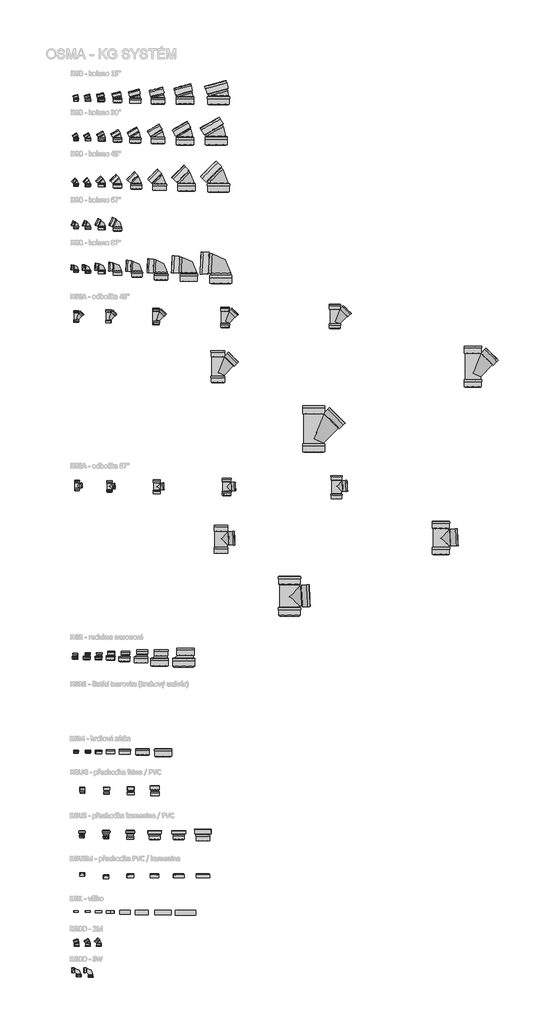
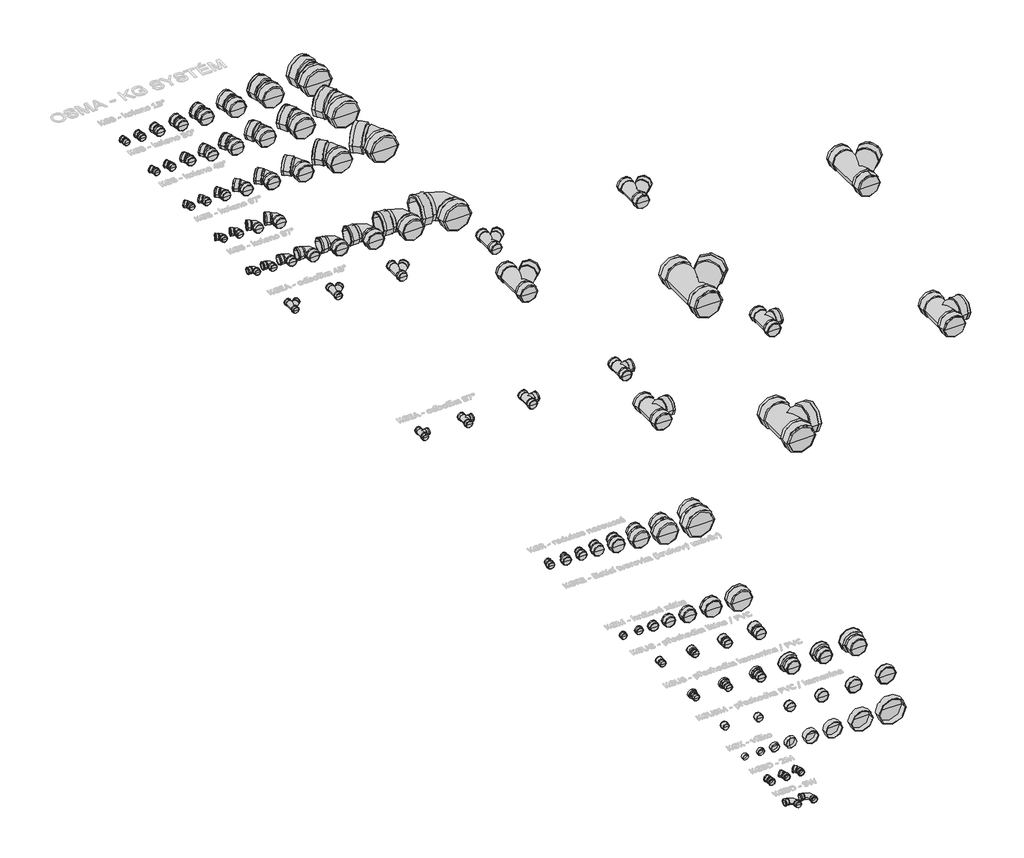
# One storey, part 1 of 11: 96 pipe fittings.
"""IFC4 building model written with IfcOpenShell, lengths in millimetres."""

from ifc_helpers import new_model, si_unit, origin, place, context, project, spatial, transform, mapped, element, save
from components import pipe_fitting_5a6e30b1, pipe_fitting_2837489d, pipe_fitting_dc32cf9a, pipe_fitting_b8d6450d, pipe_fitting_40a91ca7, pipe_fitting_8ffdc7c7, pipe_fitting_6a65c738, pipe_fitting_c6753fa5, pipe_fitting_4bf7101e, pipe_fitting_a2362ea0, pipe_fitting_9a41f693, pipe_fitting_a5079038, pipe_fitting_8c594ed1, pipe_fitting_febe9d38, pipe_fitting_99e02b00, pipe_fitting_37186c2c, pipe_fitting_910813cb, pipe_fitting_0326b847, pipe_fitting_0e802f2f, pipe_fitting_2887bba4, pipe_fitting_e1511a6a, pipe_fitting_8aa33925, pipe_fitting_d19f67d4, pipe_fitting_51a074c1, pipe_fitting_e6965fa8, pipe_fitting_e22430f9, pipe_fitting_066d6869, pipe_fitting_6eddf8c8, pipe_fitting_09943354, pipe_fitting_ffc2082e, pipe_fitting_1d1756fd, pipe_fitting_90de1f05, pipe_fitting_f74dee84, pipe_fitting_d5e943a8, pipe_fitting_e47ee67b, pipe_fitting_beb3b544, pipe_fitting_9a7229fe, pipe_fitting_2e6fd54e, pipe_fitting_927fa2d2, pipe_fitting_35860470, pipe_fitting_46e281f1, pipe_fitting_bbba7b96, pipe_fitting_8a2bdf2f, pipe_fitting_8c685066, pipe_fitting_2b2e1a89, pipe_fitting_80dcf368, pipe_fitting_c8b2bdba, pipe_fitting_d901568e, pipe_fitting_255ecb20, pipe_fitting_365be447, pipe_fitting_ae4a4517, pipe_fitting_b08f8388, pipe_fitting_9fab9375, pipe_fitting_a868a8c7, pipe_fitting_8a480465, pipe_fitting_30c0f1cb, pipe_fitting_4585e259, pipe_fitting_414ade49, pipe_fitting_635b38b5, pipe_fitting_34dcda45, pipe_fitting_20eff91d, pipe_fitting_ef111def, pipe_fitting_99fc2559, pipe_fitting_96c7e01a, pipe_fitting_d790b651, pipe_fitting_e43abb69, pipe_fitting_0b5b723b, pipe_fitting_31d9e293, pipe_fitting_0f3e2c08, pipe_fitting_437f7f8f, pipe_fitting_2241b52f, pipe_fitting_3bbf1025, pipe_fitting_0191ecb1, pipe_fitting_44bcff53, pipe_fitting_68c4766c, pipe_fitting_071e107d, pipe_fitting_3e9633bb, pipe_fitting_a25a1ad3, pipe_fitting_4d8cb074, pipe_fitting_13331f16, pipe_fitting_24f530bc, pipe_fitting_43338059, pipe_fitting_58989ca3, pipe_fitting_af80dbad, pipe_fitting_bcc23936, pipe_fitting_2ef12dd6, pipe_fitting_b3f756ff, pipe_fitting_48048346, pipe_fitting_a9f88fd3, pipe_fitting_ba354359, pipe_fitting_25325497, pipe_fitting_2def1864, pipe_fitting_9ba251ea, pipe_fitting_2241f474, pipe_fitting_98616ae5

model = new_model("IFC4")

# Units and contexts
model_context = context("Model", 3, world=origin())
ifc_project = project(units=[si_unit("LENGTHUNIT", "METRE", prefix="MILLI")], contexts=[model_context])

# Site, building, storey
site = spatial("IfcSite", under=ifc_project)
building = spatial("IfcBuilding", under=site)
storey = spatial("IfcBuildingStorey", under=building, Name="Podlaží 1", Elevation=0.0)

# Pipe fittings
placement = place(None, origin())
pipe_fitting_shape = pipe_fitting_5a6e30b1(model_context)
element("IfcPipeFitting", 1, ObjectType="pf_KGB : pf_KGB", at=placement, inside=storey, context=model_context, shape_type="MappedRepresentation", body=[
    mapped(pipe_fitting_shape, transform((-20110.0946157, 21881.2908069, 0.0), x_axis=(0.0, 1.0000000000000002, 0.0), y_axis=(-1.0000000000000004, 0.0, 0.0), z_axis=(0.0, 0.0, 1.0000000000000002))),
])
pipe_fitting_2_shape = pipe_fitting_2837489d(model_context)
element("IfcPipeFitting", 2, ObjectType="pf_KGEA : pf_KGEA", at=placement, inside=storey, context=model_context, shape_type="MappedRepresentation", body=[
    mapped(pipe_fitting_2_shape, transform((-20406.3384973, 17234.6568635, 0.0), x_axis=(0.0, 1.0, 0.0), y_axis=(-1.0, 0.0, 0.0), z_axis=(0.0, 0.0, 1.0))),
])
pipe_fitting_3_shape = pipe_fitting_dc32cf9a(model_context)
element("IfcPipeFitting", 3, ObjectType="pf_KGR_red-nes : pf_KGR_red-nes", at=placement, inside=storey, context=model_context, shape_type="MappedRepresentation", body=[
    mapped(pipe_fitting_3_shape, transform((-19836.3384973, 8578.1532202, 0.0), x_axis=(0.0, 1.0, 0.0), y_axis=(-1.0, 0.0, 0.0), z_axis=(0.0, 0.0, 1.0))),
])
pipe_fitting_4_shape = pipe_fitting_b8d6450d(model_context)
element("IfcPipeFitting", 4, ObjectType="pf_KGM_zatka : pf_KGM_zatka", at=placement, inside=storey, context=model_context, shape_type="MappedRepresentation", body=[
    mapped(pipe_fitting_4_shape, transform((-19835.1036608, 6166.7811771, 0.0), x_axis=(0.0, 1.0, 0.0), y_axis=(-1.0, 0.0, 0.0), z_axis=(0.0, 0.0, 1.0))),
])
pipe_fitting_5_shape = pipe_fitting_40a91ca7(model_context)
element("IfcPipeFitting", 5, ObjectType="pf_KGM_zatka : pf_KGM_zatka", at=placement, inside=storey, context=model_context, shape_type="MappedRepresentation", body=[
    mapped(pipe_fitting_5_shape, transform((-20105.1036608, 6166.7811771, 0.0), x_axis=(0.0, 1.0, 0.0), y_axis=(-1.0, 0.0, 0.0), z_axis=(0.0, 0.0, 1.0))),
])
pipe_fitting_6_shape = pipe_fitting_8ffdc7c7(model_context)
element("IfcPipeFitting", 6, ObjectType="pf_KGM_zatka : pf_KGM_zatka", at=placement, inside=storey, context=model_context, shape_type="MappedRepresentation", body=[
    mapped(pipe_fitting_6_shape, transform((-20410.1036608, 6166.7811771, 0.0), x_axis=(0.0, 1.0, 0.0), y_axis=(-1.0, 0.0, 0.0), z_axis=(0.0, 0.0, 1.0))),
])
pipe_fitting_7_shape = pipe_fitting_6a65c738(model_context)
element("IfcPipeFitting", 7, ObjectType="pf_KGM_zatka : pf_KGM_zatka", at=placement, inside=storey, context=model_context, shape_type="MappedRepresentation", body=[
    mapped(pipe_fitting_7_shape, transform((-19530.1036608, 6186.7811771, 0.0), x_axis=(0.0, 1.0, 0.0), y_axis=(-1.0, 0.0, 0.0), z_axis=(0.0, 0.0, 1.0))),
])
pipe_fitting_8_shape = pipe_fitting_c6753fa5(model_context)
element("IfcPipeFitting", 8, ObjectType="pf_KGM_zatka : pf_KGM_zatka", at=placement, inside=storey, context=model_context, shape_type="MappedRepresentation", body=[
    mapped(pipe_fitting_8_shape, transform((-19160.1036608, 6196.7811771, 0.0), x_axis=(0.0, 1.0, 0.0), y_axis=(-1.0, 0.0, 0.0), z_axis=(0.0, 0.0, 1.0))),
])
pipe_fitting_9_shape = pipe_fitting_4bf7101e(model_context)
element("IfcPipeFitting", 9, ObjectType="pf_KGM_zatka : pf_KGM_zatka", at=placement, inside=storey, context=model_context, shape_type="MappedRepresentation", body=[
    mapped(pipe_fitting_9_shape, transform((-18710.1036608, 6206.7811771, 0.0), x_axis=(0.0, 1.0, 0.0), y_axis=(-1.0, 0.0, 0.0), z_axis=(0.0, 0.0, 1.0))),
])
pipe_fitting_10_shape = pipe_fitting_a2362ea0(model_context)
element("IfcPipeFitting", 10, ObjectType="pf_KGM_zatka : pf_KGM_zatka", at=placement, inside=storey, context=model_context, shape_type="MappedRepresentation", body=[
    mapped(pipe_fitting_10_shape, transform((-18180.1036608, 6206.7811771, 0.0), x_axis=(0.0, 1.0, 0.0), y_axis=(-1.0, 0.0, 0.0), z_axis=(0.0, 0.0, 1.0))),
])
pipe_fitting_11_shape = pipe_fitting_9a41f693(model_context)
element("IfcPipeFitting", 11, ObjectType="pf_KGR_red-nes : pf_KGR_red-nes", at=placement, inside=storey, context=model_context, shape_type="MappedRepresentation", body=[
    mapped(pipe_fitting_11_shape, transform((-20436.1127464, 8578.1532202, 0.0), x_axis=(0.0, 1.0, 0.0), y_axis=(-1.0, 0.0, 0.0), z_axis=(0.0, 0.0, 1.0))),
])
pipe_fitting_12_shape = pipe_fitting_a5079038(model_context)
element("IfcPipeFitting", 12, ObjectType="pf_KGR_red-nes : pf_KGR_red-nes", at=placement, inside=storey, context=model_context, shape_type="MappedRepresentation", body=[
    mapped(pipe_fitting_12_shape, transform((-20135.0946157, 8578.1532202, 0.0), x_axis=(0.0, 1.0, 0.0), y_axis=(-1.0, 0.0, 0.0), z_axis=(0.0, 0.0, 1.0))),
])
pipe_fitting_13_shape = pipe_fitting_8c594ed1(model_context)
element("IfcPipeFitting", 13, ObjectType="pf_KGR_red-nes : pf_KGR_red-nes", at=placement, inside=storey, context=model_context, shape_type="MappedRepresentation", body=[
    mapped(pipe_fitting_13_shape, transform((-19525.9622902, 8591.79962, 0.0), x_axis=(0.0, 1.0, 0.0), y_axis=(-1.0, 0.0, 0.0), z_axis=(0.0, 0.0, 1.0))),
])
pipe_fitting_14_shape = pipe_fitting_febe9d38(model_context)
element("IfcPipeFitting", 14, ObjectType="pf_KGR_red-nes : pf_KGR_red-nes", at=placement, inside=storey, context=model_context, shape_type="MappedRepresentation", body=[
    mapped(pipe_fitting_14_shape, transform((-19171.3384973, 8571.79962, 0.0), x_axis=(0.0, 1.0, 0.0), y_axis=(-1.0, 0.0, 0.0), z_axis=(0.0, 0.0, 1.0))),
])
pipe_fitting_15_shape = pipe_fitting_99e02b00(model_context)
element("IfcPipeFitting", 15, ObjectType="pf_KGR_red-nes : pf_KGR_red-nes", at=placement, inside=storey, context=model_context, shape_type="MappedRepresentation", body=[
    mapped(pipe_fitting_15_shape, transform((-18746.3384973, 8571.79962, 0.0), x_axis=(0.0, 1.0, 0.0), y_axis=(-1.0, 0.0, 0.0), z_axis=(0.0, 0.0, 1.0))),
])
pipe_fitting_16_shape = pipe_fitting_37186c2c(model_context)
element("IfcPipeFitting", 16, ObjectType="pf_KGR_red-nes : pf_KGR_red-nes", at=placement, inside=storey, context=model_context, shape_type="MappedRepresentation", body=[
    mapped(pipe_fitting_16_shape, transform((-18273.9150129, 8525.238359, 0.0), x_axis=(0.0, 1.0, 0.0), y_axis=(-1.0, 0.0, 0.0), z_axis=(0.0, 0.0, 1.0))),
])
pipe_fitting_17_shape = pipe_fitting_910813cb(model_context)
element("IfcPipeFitting", 17, ObjectType="pf_KGR_red-nes : pf_KGR_red-nes", at=placement, inside=storey, context=model_context, shape_type="MappedRepresentation", body=[
    mapped(pipe_fitting_17_shape, transform((-17655.9744929, 8525.5538389, 0.0), x_axis=(0.0, 1.0, 0.0), y_axis=(-1.0, 0.0, 0.0), z_axis=(0.0, 0.0, 1.0))),
])
pipe_fitting_18_shape = pipe_fitting_0326b847(model_context)
element("IfcPipeFitting", 18, ObjectType="pf_KGUG : pf_KGUG", at=placement, inside=storey, context=model_context, shape_type="MappedRepresentation", body=[
    mapped(pipe_fitting_18_shape, transform((-20250.645642, 5137.2230289, 0.0), x_axis=(0.0, 1.0000000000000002, 0.0), y_axis=(-1.0000000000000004, 0.0, 0.0), z_axis=(0.0, 0.0, 1.0000000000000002))),
])
pipe_fitting_19_shape = pipe_fitting_0e802f2f(model_context)
element("IfcPipeFitting", 19, ObjectType="pf_KGUG : pf_KGUG", at=placement, inside=storey, context=model_context, shape_type="MappedRepresentation", body=[
    mapped(pipe_fitting_19_shape, transform((-19630.645642, 5137.2230289, 0.0), x_axis=(0.0, 1.0000000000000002, 0.0), y_axis=(-1.0000000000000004, 0.0, 0.0), z_axis=(0.0, 0.0, 1.0000000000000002))),
])
pipe_fitting_20_shape = pipe_fitting_2887bba4(model_context)
element("IfcPipeFitting", 20, ObjectType="pf_KGUG : pf_KGUG", at=placement, inside=storey, context=model_context, shape_type="MappedRepresentation", body=[
    mapped(pipe_fitting_20_shape, transform((-19010.645642, 5137.2230289, 0.0), x_axis=(0.0, 1.0000000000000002, 0.0), y_axis=(-1.0000000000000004, 0.0, 0.0), z_axis=(0.0, 0.0, 1.0000000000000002))),
])
pipe_fitting_21_shape = pipe_fitting_e1511a6a(model_context)
element("IfcPipeFitting", 21, ObjectType="pf_KGUG : pf_KGUG", at=placement, inside=storey, context=model_context, shape_type="MappedRepresentation", body=[
    mapped(pipe_fitting_21_shape, transform((-18390.645642, 5137.2230289, 0.0), x_axis=(0.0, 1.0000000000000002, 0.0), y_axis=(-1.0000000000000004, 0.0, 0.0), z_axis=(0.0, 0.0, 1.0000000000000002))),
])
pipe_fitting_22_shape = pipe_fitting_8aa33925(model_context)
element("IfcPipeFitting", 22, ObjectType="pf_KGUS : pf_KGUS", at=placement, inside=storey, context=model_context, shape_type="MappedRepresentation", body=[
    mapped(pipe_fitting_22_shape, transform((-20260.519603, 4033.5229696, 0.0), x_axis=(0.0, 1.0000000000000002, 0.0), y_axis=(-1.0000000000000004, 0.0, 0.0), z_axis=(0.0, 0.0, 1.0000000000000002))),
])
pipe_fitting_23_shape = pipe_fitting_d19f67d4(model_context)
element("IfcPipeFitting", 23, ObjectType="pf_KGUS : pf_KGUS", at=placement, inside=storey, context=model_context, shape_type="MappedRepresentation", body=[
    mapped(pipe_fitting_23_shape, transform((-19640.519603, 4033.5229696, 0.0), x_axis=(0.0, 1.0000000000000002, 0.0), y_axis=(-1.0000000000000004, 0.0, 0.0), z_axis=(0.0, 0.0, 1.0000000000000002))),
])
pipe_fitting_24_shape = pipe_fitting_51a074c1(model_context)
element("IfcPipeFitting", 24, ObjectType="pf_KGUS : pf_KGUS", at=placement, inside=storey, context=model_context, shape_type="MappedRepresentation", body=[
    mapped(pipe_fitting_24_shape, transform((-19020.519603, 4033.5229696, 0.0), x_axis=(0.0, 1.0000000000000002, 0.0), y_axis=(-1.0000000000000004, 0.0, 0.0), z_axis=(0.0, 0.0, 1.0000000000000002))),
])
pipe_fitting_25_shape = pipe_fitting_e6965fa8(model_context)
element("IfcPipeFitting", 25, ObjectType="pf_KGUS : pf_KGUS", at=placement, inside=storey, context=model_context, shape_type="MappedRepresentation", body=[
    mapped(pipe_fitting_25_shape, transform((-18400.519603, 4033.5229696, 0.0), x_axis=(0.0, 1.0000000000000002, 0.0), y_axis=(-1.0000000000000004, 0.0, 0.0), z_axis=(0.0, 0.0, 1.0000000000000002))),
])
element("IfcPipeFitting", 26, ObjectType="pf_KGUS : pf_KGUS", at=placement, inside=storey, context=model_context, shape_type="MappedRepresentation", body=[
    mapped(pipe_fitting_25_shape, transform((-17780.519603, 4033.5229696, 0.0), x_axis=(0.0, 1.0000000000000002, 0.0), y_axis=(-1.0000000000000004, 0.0, 0.0), z_axis=(0.0, 0.0, 1.0000000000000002))),
])
pipe_fitting_26_shape = pipe_fitting_e22430f9(model_context)
element("IfcPipeFitting", 27, ObjectType="pf_KGUS : pf_KGUS", at=placement, inside=storey, context=model_context, shape_type="MappedRepresentation", body=[
    mapped(pipe_fitting_26_shape, transform((-17160.519603, 4033.5229696, 0.0), x_axis=(0.0, 1.0000000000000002, 0.0), y_axis=(-1.0000000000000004, 0.0, 0.0), z_axis=(0.0, 0.0, 1.0000000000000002))),
])
pipe_fitting_27_shape = pipe_fitting_066d6869(model_context)
element("IfcPipeFitting", 28, ObjectType="pf_KGUSM : pf_KGUSM", at=placement, inside=storey, context=model_context, shape_type="MappedRepresentation", body=[
    mapped(pipe_fitting_27_shape, transform((-20256.3384973, 2948.0229696, 0.0), x_axis=(0.0, 1.0000000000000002, 0.0), y_axis=(-1.0000000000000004, 0.0, 0.0), z_axis=(0.0, 0.0, 1.0000000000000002))),
])
pipe_fitting_28_shape = pipe_fitting_6eddf8c8(model_context)
element("IfcPipeFitting", 29, ObjectType="pf_KGUSM : pf_KGUSM", at=placement, inside=storey, context=model_context, shape_type="MappedRepresentation", body=[
    mapped(pipe_fitting_28_shape, transform((-19640.519603, 2882.8229696, 0.0), x_axis=(0.0, 1.0000000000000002, 0.0), y_axis=(-1.0000000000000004, 0.0, 0.0), z_axis=(0.0, 0.0, 1.0000000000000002))),
])
pipe_fitting_29_shape = pipe_fitting_09943354(model_context)
element("IfcPipeFitting", 30, ObjectType="pf_KGUSM : pf_KGUSM", at=placement, inside=storey, context=model_context, shape_type="MappedRepresentation", body=[
    mapped(pipe_fitting_29_shape, transform((-19020.519603, 2903.5229696, 0.0), x_axis=(0.0, 1.0000000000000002, 0.0), y_axis=(-1.0000000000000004, 0.0, 0.0), z_axis=(0.0, 0.0, 1.0000000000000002))),
])
pipe_fitting_30_shape = pipe_fitting_ffc2082e(model_context)
element("IfcPipeFitting", 31, ObjectType="pf_KGUSM : pf_KGUSM", at=placement, inside=storey, context=model_context, shape_type="MappedRepresentation", body=[
    mapped(pipe_fitting_30_shape, transform((-18400.519603, 2903.5229696, 0.0), x_axis=(0.0, 1.0000000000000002, 0.0), y_axis=(-1.0000000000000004, 0.0, 0.0), z_axis=(0.0, 0.0, 1.0000000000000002))),
])
pipe_fitting_31_shape = pipe_fitting_1d1756fd(model_context)
element("IfcPipeFitting", 32, ObjectType="pf_KGUSM : pf_KGUSM", at=placement, inside=storey, context=model_context, shape_type="MappedRepresentation", body=[
    mapped(pipe_fitting_31_shape, transform((-17780.519603, 2903.5229696, 0.0), x_axis=(0.0, 1.0000000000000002, 0.0), y_axis=(-1.0000000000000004, 0.0, 0.0), z_axis=(0.0, 0.0, 1.0000000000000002))),
])
pipe_fitting_32_shape = pipe_fitting_90de1f05(model_context)
element("IfcPipeFitting", 33, ObjectType="pf_KGUSM : pf_KGUSM", at=placement, inside=storey, context=model_context, shape_type="MappedRepresentation", body=[
    mapped(pipe_fitting_32_shape, transform((-17160.519603, 2903.5229696, 0.0), x_axis=(0.0, 1.0000000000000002, 0.0), y_axis=(-1.0000000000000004, 0.0, 0.0), z_axis=(0.0, 0.0, 1.0000000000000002))),
])
pipe_fitting_33_shape = pipe_fitting_f74dee84(model_context)
element("IfcPipeFitting", 34, ObjectType="pf_KGK_vicko : pf_KGK_vicko", at=placement, inside=storey, context=model_context, shape_type="MappedRepresentation", body=[
    mapped(pipe_fitting_33_shape, transform((-19842.028048, 2059.5102289, 0.0), x_axis=(0.0, 1.0000000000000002, 0.0), y_axis=(-1.0000000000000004, 0.0, 0.0), z_axis=(0.0, 0.0, 1.0000000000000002))),
])
pipe_fitting_34_shape = pipe_fitting_d5e943a8(model_context)
element("IfcPipeFitting", 35, ObjectType="pf_KGBD-2M : pf_KGBD-2M", at=placement, inside=storey, context=model_context, shape_type="MappedRepresentation", body=[
    mapped(pipe_fitting_34_shape, transform((-20107.3143419, 1238.5496656, 0.0), x_axis=(0.0, 1.0000000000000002, 0.0), y_axis=(-1.0000000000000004, 0.0, 0.0), z_axis=(0.0, 0.0, 1.0000000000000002))),
])
pipe_fitting_35_shape = pipe_fitting_e47ee67b(model_context)
element("IfcPipeFitting", 36, ObjectType="pf_KGBD-2M : pf_KGBD-2M", at=placement, inside=storey, context=model_context, shape_type="MappedRepresentation", body=[
    mapped(pipe_fitting_35_shape, transform((-20397.3143419, 1233.5496656, 0.0), x_axis=(0.0, 1.0000000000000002, 0.0), y_axis=(-1.0000000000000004, 0.0, 0.0), z_axis=(0.0, 0.0, 1.0000000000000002))),
])
pipe_fitting_36_shape = pipe_fitting_beb3b544(model_context)
element("IfcPipeFitting", 37, ObjectType="pf_KGBD-2M : pf_KGBD-2M", at=placement, inside=storey, context=model_context, shape_type="MappedRepresentation", body=[
    mapped(pipe_fitting_36_shape, transform((-19827.3143419, 1248.5496656, 0.0), x_axis=(0.0, 1.0000000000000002, 0.0), y_axis=(-1.0000000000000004, 0.0, 0.0), z_axis=(0.0, 0.0, 1.0000000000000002))),
])
pipe_fitting_37_shape = pipe_fitting_9a7229fe(model_context)
element("IfcPipeFitting", 38, ObjectType="pf_KGBD-SW : pf_KGBD-SW", at=placement, inside=storey, context=model_context, shape_type="MappedRepresentation", body=[
    mapped(pipe_fitting_37_shape, transform((-20038.1091323, 527.7205421, 0.0), x_axis=(0.0, 1.0000000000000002, 0.0), y_axis=(-1.0000000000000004, 0.0, 0.0), z_axis=(0.0, 0.0, 1.0000000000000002))),
])
pipe_fitting_38_shape = pipe_fitting_2e6fd54e(model_context)
element("IfcPipeFitting", 39, ObjectType="pf_KGBD-SW : pf_KGBD-SW", at=placement, inside=storey, context=model_context, shape_type="MappedRepresentation", body=[
    mapped(pipe_fitting_38_shape, transform((-20343.1091323, 527.7205421, 0.0), x_axis=(0.0, 1.0000000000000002, 0.0), y_axis=(-1.0000000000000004, 0.0, 0.0), z_axis=(0.0, 0.0, 1.0000000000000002))),
])
pipe_fitting_39_shape = pipe_fitting_927fa2d2(model_context)
element("IfcPipeFitting", 40, ObjectType="pf_KGK_vicko : pf_KGK_vicko", at=placement, inside=storey, context=model_context, shape_type="MappedRepresentation", body=[
    mapped(pipe_fitting_39_shape, transform((-20112.028048, 2059.5102289, 0.0), x_axis=(0.0, 1.0000000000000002, 0.0), y_axis=(-1.0000000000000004, 0.0, 0.0), z_axis=(0.0, 0.0, 1.0000000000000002))),
])
pipe_fitting_40_shape = pipe_fitting_35860470(model_context)
element("IfcPipeFitting", 41, ObjectType="pf_KGK_vicko : pf_KGK_vicko", at=placement, inside=storey, context=model_context, shape_type="MappedRepresentation", body=[
    mapped(pipe_fitting_40_shape, transform((-19537.028048, 2059.5102289, 0.0), x_axis=(0.0, 1.0, 0.0), y_axis=(0.0, 0.0, -1.0000000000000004), z_axis=(-1.0000000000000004, 0.0, 0.0))),
])
pipe_fitting_41_shape = pipe_fitting_46e281f1(model_context)
element("IfcPipeFitting", 42, ObjectType="pf_KGK_vicko : pf_KGK_vicko", at=placement, inside=storey, context=model_context, shape_type="MappedRepresentation", body=[
    mapped(pipe_fitting_41_shape, transform((-19157.028048, 2059.5102289, 0.0), x_axis=(0.0, 1.0000000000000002, 0.0), y_axis=(-1.0000000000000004, 0.0, 0.0), z_axis=(0.0, 0.0, 1.0000000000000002))),
])
pipe_fitting_42_shape = pipe_fitting_bbba7b96(model_context)
element("IfcPipeFitting", 43, ObjectType="pf_KGK_vicko : pf_KGK_vicko", at=placement, inside=storey, context=model_context, shape_type="MappedRepresentation", body=[
    mapped(pipe_fitting_42_shape, transform((-18727.028048, 2059.5102289, 0.0), x_axis=(0.0, 1.0000000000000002, 0.0), y_axis=(-1.0000000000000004, 0.0, 0.0), z_axis=(0.0, 0.0, 1.0000000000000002))),
])
pipe_fitting_43_shape = pipe_fitting_8a2bdf2f(model_context)
element("IfcPipeFitting", 44, ObjectType="pf_KGK_vicko : pf_KGK_vicko", at=placement, inside=storey, context=model_context, shape_type="MappedRepresentation", body=[
    mapped(pipe_fitting_43_shape, transform((-18187.028048, 2059.5102289, 0.0), x_axis=(0.0, 1.0000000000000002, 0.0), y_axis=(-1.0000000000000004, 0.0, 0.0), z_axis=(0.0, 0.0, 1.0000000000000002))),
])
pipe_fitting_44_shape = pipe_fitting_8c685066(model_context)
element("IfcPipeFitting", 45, ObjectType="pf_KGK_vicko : pf_KGK_vicko", at=placement, inside=storey, context=model_context, shape_type="MappedRepresentation", body=[
    mapped(pipe_fitting_44_shape, transform((-17607.028048, 2059.5102289, 0.0), x_axis=(0.0, 1.0000000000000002, 0.0), y_axis=(-1.0000000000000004, 0.0, 0.0), z_axis=(0.0, 0.0, 1.0000000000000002))),
])
pipe_fitting_45_shape = pipe_fitting_2b2e1a89(model_context)
element("IfcPipeFitting", 46, ObjectType="pf_KGK_vicko : pf_KGK_vicko", at=placement, inside=storey, context=model_context, shape_type="MappedRepresentation", body=[
    mapped(pipe_fitting_45_shape, transform((-20412.028048, 2059.5102289, 0.0), x_axis=(0.0, 1.0000000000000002, 0.0), y_axis=(-1.0000000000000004, 0.0, 0.0), z_axis=(0.0, 0.0, 1.0000000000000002))),
])
pipe_fitting_46_shape = pipe_fitting_80dcf368(model_context)
element("IfcPipeFitting", 47, ObjectType="pf_KGB : pf_KGB", at=placement, inside=storey, context=model_context, shape_type="MappedRepresentation", body=[
    mapped(pipe_fitting_46_shape, transform((-20410.0946157, 22881.2908069, 0.0), x_axis=(0.0, 1.0000000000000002, 0.0), y_axis=(-1.0000000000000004, 0.0, 0.0), z_axis=(0.0, 0.0, 1.0000000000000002))),
])
pipe_fitting_47_shape = pipe_fitting_c8b2bdba(model_context)
element("IfcPipeFitting", 48, ObjectType="pf_KGB : pf_KGB", at=placement, inside=storey, context=model_context, shape_type="MappedRepresentation", body=[
    mapped(pipe_fitting_47_shape, transform((-20110.0946157, 22881.2908069, 0.0), x_axis=(0.0, 1.0000000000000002, 0.0), y_axis=(-1.0000000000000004, 0.0, 0.0), z_axis=(0.0, 0.0, 1.0000000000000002))),
])
pipe_fitting_48_shape = pipe_fitting_d901568e(model_context)
element("IfcPipeFitting", 49, ObjectType="pf_KGB : pf_KGB", at=placement, inside=storey, context=model_context, shape_type="MappedRepresentation", body=[
    mapped(pipe_fitting_48_shape, transform((-19770.0946157, 22896.2908069, 0.0), x_axis=(0.0, 1.0000000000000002, 0.0), y_axis=(-1.0000000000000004, 0.0, 0.0), z_axis=(0.0, 0.0, 1.0000000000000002))),
])
pipe_fitting_49_shape = pipe_fitting_255ecb20(model_context)
element("IfcPipeFitting", 50, ObjectType="pf_KGB : pf_KGB", at=placement, inside=storey, context=model_context, shape_type="MappedRepresentation", body=[
    mapped(pipe_fitting_49_shape, transform((-19350.0946157, 22896.2908069, 0.0), x_axis=(0.0, 1.0000000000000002, 0.0), y_axis=(-1.0000000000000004, 0.0, 0.0), z_axis=(0.0, 0.0, 1.0000000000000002))),
])
pipe_fitting_50_shape = pipe_fitting_365be447(model_context)
element("IfcPipeFitting", 51, ObjectType="pf_KGB : pf_KGB", at=placement, inside=storey, context=model_context, shape_type="MappedRepresentation", body=[
    mapped(pipe_fitting_50_shape, transform((-18890.0946157, 22916.2908069, 0.0), x_axis=(0.0, 1.0000000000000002, 0.0), y_axis=(-1.0000000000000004, 0.0, 0.0), z_axis=(0.0, 0.0, 1.0000000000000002))),
])
pipe_fitting_51_shape = pipe_fitting_ae4a4517(model_context)
element("IfcPipeFitting", 52, ObjectType="pf_KGB : pf_KGB", at=placement, inside=storey, context=model_context, shape_type="MappedRepresentation", body=[
    mapped(pipe_fitting_51_shape, transform((-18310.0946157, 22916.2908069, 0.0), x_axis=(0.0, 1.0000000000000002, 0.0), y_axis=(-1.0000000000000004, 0.0, 0.0), z_axis=(0.0, 0.0, 1.0000000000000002))),
])
pipe_fitting_52_shape = pipe_fitting_b08f8388(model_context)
element("IfcPipeFitting", 53, ObjectType="pf_KGB : pf_KGB", at=placement, inside=storey, context=model_context, shape_type="MappedRepresentation", body=[
    mapped(pipe_fitting_52_shape, transform((-17620.0946157, 22946.2908069, 0.0), x_axis=(0.0, 1.0000000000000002, 0.0), y_axis=(-1.0000000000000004, 0.0, 0.0), z_axis=(0.0, 0.0, 1.0000000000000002))),
])
pipe_fitting_53_shape = pipe_fitting_9fab9375(model_context)
element("IfcPipeFitting", 54, ObjectType="pf_KGB : pf_KGB", at=placement, inside=storey, context=model_context, shape_type="MappedRepresentation", body=[
    mapped(pipe_fitting_53_shape, transform((-16760.0946157, 22976.2908069, 0.0), x_axis=(0.0, 1.0000000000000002, 0.0), y_axis=(-1.0000000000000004, 0.0, 0.0), z_axis=(0.0, 0.0, 1.0000000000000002))),
])
pipe_fitting_54_shape = pipe_fitting_a868a8c7(model_context)
element("IfcPipeFitting", 55, ObjectType="pf_KGB : pf_KGB", at=placement, inside=storey, context=model_context, shape_type="MappedRepresentation", body=[
    mapped(pipe_fitting_54_shape, transform((-20410.0946157, 21881.2908069, 0.0), x_axis=(0.0, 1.0000000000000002, 0.0), y_axis=(-1.0000000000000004, 0.0, 0.0), z_axis=(0.0, 0.0, 1.0000000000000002))),
])
pipe_fitting_55_shape = pipe_fitting_8a480465(model_context)
element("IfcPipeFitting", 56, ObjectType="pf_KGB : pf_KGB", at=placement, inside=storey, context=model_context, shape_type="MappedRepresentation", body=[
    mapped(pipe_fitting_55_shape, transform((-19750.0946157, 21896.2908069, 0.0), x_axis=(0.0, 1.0000000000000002, 0.0), y_axis=(-1.0000000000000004, 0.0, 0.0), z_axis=(0.0, 0.0, 1.0000000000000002))),
])
pipe_fitting_56_shape = pipe_fitting_30c0f1cb(model_context)
element("IfcPipeFitting", 57, ObjectType="pf_KGB : pf_KGB", at=placement, inside=storey, context=model_context, shape_type="MappedRepresentation", body=[
    mapped(pipe_fitting_56_shape, transform((-19350.0946157, 21896.2908069, 0.0), x_axis=(0.0, 1.0000000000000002, 0.0), y_axis=(-1.0000000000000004, 0.0, 0.0), z_axis=(0.0, 0.0, 1.0000000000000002))),
])
pipe_fitting_57_shape = pipe_fitting_4585e259(model_context)
element("IfcPipeFitting", 58, ObjectType="pf_KGB : pf_KGB", at=placement, inside=storey, context=model_context, shape_type="MappedRepresentation", body=[
    mapped(pipe_fitting_57_shape, transform((-18890.0946157, 21916.2908069, 0.0), x_axis=(0.0, 1.0000000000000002, 0.0), y_axis=(-1.0000000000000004, 0.0, 0.0), z_axis=(0.0, 0.0, 1.0000000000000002))),
])
pipe_fitting_58_shape = pipe_fitting_414ade49(model_context)
element("IfcPipeFitting", 59, ObjectType="pf_KGB : pf_KGB", at=placement, inside=storey, context=model_context, shape_type="MappedRepresentation", body=[
    mapped(pipe_fitting_58_shape, transform((-18310.0946157, 21916.2908069, 0.0), x_axis=(0.0, 1.0000000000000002, 0.0), y_axis=(-1.0000000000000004, 0.0, 0.0), z_axis=(0.0, 0.0, 1.0000000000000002))),
])
pipe_fitting_59_shape = pipe_fitting_635b38b5(model_context)
element("IfcPipeFitting", 60, ObjectType="pf_KGB : pf_KGB", at=placement, inside=storey, context=model_context, shape_type="MappedRepresentation", body=[
    mapped(pipe_fitting_59_shape, transform((-17620.0946157, 21946.2908069, 0.0), x_axis=(0.0, 1.0000000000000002, 0.0), y_axis=(-1.0000000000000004, 0.0, 0.0), z_axis=(0.0, 0.0, 1.0000000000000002))),
])
pipe_fitting_60_shape = pipe_fitting_34dcda45(model_context)
element("IfcPipeFitting", 61, ObjectType="pf_KGB : pf_KGB", at=placement, inside=storey, context=model_context, shape_type="MappedRepresentation", body=[
    mapped(pipe_fitting_60_shape, transform((-16820.0946157, 21976.2908069, 0.0), x_axis=(0.0, 1.0000000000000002, 0.0), y_axis=(-1.0000000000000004, 0.0, 0.0), z_axis=(0.0, 0.0, 1.0000000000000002))),
])
pipe_fitting_61_shape = pipe_fitting_20eff91d(model_context)
element("IfcPipeFitting", 62, ObjectType="pf_KGB : pf_KGB", at=placement, inside=storey, context=model_context, shape_type="MappedRepresentation", body=[
    mapped(pipe_fitting_61_shape, transform((-20410.0946157, 20721.2908069, 0.0), x_axis=(0.0, 1.0000000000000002, 0.0), y_axis=(-1.0000000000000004, 0.0, 0.0), z_axis=(0.0, 0.0, 1.0000000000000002))),
])
pipe_fitting_62_shape = pipe_fitting_ef111def(model_context)
element("IfcPipeFitting", 63, ObjectType="pf_KGB : pf_KGB", at=placement, inside=storey, context=model_context, shape_type="MappedRepresentation", body=[
    mapped(pipe_fitting_62_shape, transform((-20110.0946157, 20721.2908069, 0.0), x_axis=(0.0, 1.0000000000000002, 0.0), y_axis=(-1.0000000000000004, 0.0, 0.0), z_axis=(0.0, 0.0, 1.0000000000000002))),
])
pipe_fitting_63_shape = pipe_fitting_99fc2559(model_context)
element("IfcPipeFitting", 64, ObjectType="pf_KGB : pf_KGB", at=placement, inside=storey, context=model_context, shape_type="MappedRepresentation", body=[
    mapped(pipe_fitting_63_shape, transform((-19750.0946157, 20736.2908069, 0.0), x_axis=(0.0, 1.0000000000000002, 0.0), y_axis=(-1.0000000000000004, 0.0, 0.0), z_axis=(0.0, 0.0, 1.0000000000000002))),
])
pipe_fitting_64_shape = pipe_fitting_96c7e01a(model_context)
element("IfcPipeFitting", 65, ObjectType="pf_KGB : pf_KGB", at=placement, inside=storey, context=model_context, shape_type="MappedRepresentation", body=[
    mapped(pipe_fitting_64_shape, transform((-19350.0946157, 20736.2908069, 0.0), x_axis=(0.0, 1.0000000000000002, 0.0), y_axis=(-1.0000000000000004, 0.0, 0.0), z_axis=(0.0, 0.0, 1.0000000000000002))),
])
pipe_fitting_65_shape = pipe_fitting_d790b651(model_context)
element("IfcPipeFitting", 66, ObjectType="pf_KGB : pf_KGB", at=placement, inside=storey, context=model_context, shape_type="MappedRepresentation", body=[
    mapped(pipe_fitting_65_shape, transform((-18870.0946157, 20756.2908069, 0.0), x_axis=(0.0, 1.0000000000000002, 0.0), y_axis=(-1.0000000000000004, 0.0, 0.0), z_axis=(0.0, 0.0, 1.0000000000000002))),
])
pipe_fitting_66_shape = pipe_fitting_e43abb69(model_context)
element("IfcPipeFitting", 67, ObjectType="pf_KGB : pf_KGB", at=placement, inside=storey, context=model_context, shape_type="MappedRepresentation", body=[
    mapped(pipe_fitting_66_shape, transform((-18270.0946157, 20756.2908069, 0.0), x_axis=(0.0, 1.0000000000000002, 0.0), y_axis=(-1.0000000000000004, 0.0, 0.0), z_axis=(0.0, 0.0, 1.0000000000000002))),
])
pipe_fitting_67_shape = pipe_fitting_0b5b723b(model_context)
element("IfcPipeFitting", 68, ObjectType="pf_KGB : pf_KGB", at=placement, inside=storey, context=model_context, shape_type="MappedRepresentation", body=[
    mapped(pipe_fitting_67_shape, transform((-17580.0946157, 20786.2908069, 0.0), x_axis=(0.0, 1.0000000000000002, 0.0), y_axis=(-1.0000000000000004, 0.0, 0.0), z_axis=(0.0, 0.0, 1.0000000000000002))),
])
pipe_fitting_68_shape = pipe_fitting_31d9e293(model_context)
element("IfcPipeFitting", 69, ObjectType="pf_KGB : pf_KGB", at=placement, inside=storey, context=model_context, shape_type="MappedRepresentation", body=[
    mapped(pipe_fitting_68_shape, transform((-16760.0946157, 20816.2908069, 0.0), x_axis=(0.0, 1.0000000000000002, 0.0), y_axis=(-1.0000000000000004, 0.0, 0.0), z_axis=(0.0, 0.0, 1.0000000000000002))),
])
pipe_fitting_69_shape = pipe_fitting_0f3e2c08(model_context)
element("IfcPipeFitting", 70, ObjectType="pf_KGB : pf_KGB", at=placement, inside=storey, context=model_context, shape_type="MappedRepresentation", body=[
    mapped(pipe_fitting_69_shape, transform((-20410.0946157, 19641.2908069, 0.0), x_axis=(0.0, 1.0000000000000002, 0.0), y_axis=(-1.0000000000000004, 0.0, 0.0), z_axis=(0.0, 0.0, 1.0000000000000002))),
])
pipe_fitting_70_shape = pipe_fitting_437f7f8f(model_context)
element("IfcPipeFitting", 71, ObjectType="pf_KGB : pf_KGB", at=placement, inside=storey, context=model_context, shape_type="MappedRepresentation", body=[
    mapped(pipe_fitting_70_shape, transform((-20110.0946157, 19641.2908069, 0.0), x_axis=(0.0, 1.0000000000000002, 0.0), y_axis=(-1.0000000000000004, 0.0, 0.0), z_axis=(0.0, 0.0, 1.0000000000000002))),
])
pipe_fitting_71_shape = pipe_fitting_2241b52f(model_context)
element("IfcPipeFitting", 72, ObjectType="pf_KGB : pf_KGB", at=placement, inside=storey, context=model_context, shape_type="MappedRepresentation", body=[
    mapped(pipe_fitting_71_shape, transform((-19750.0946157, 19656.2908069, 0.0), x_axis=(0.0, 1.0000000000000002, 0.0), y_axis=(-1.0000000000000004, 0.0, 0.0), z_axis=(0.0, 0.0, 1.0000000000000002))),
])
pipe_fitting_72_shape = pipe_fitting_3bbf1025(model_context)
element("IfcPipeFitting", 73, ObjectType="pf_KGB : pf_KGB", at=placement, inside=storey, context=model_context, shape_type="MappedRepresentation", body=[
    mapped(pipe_fitting_72_shape, transform((-19350.0946157, 19656.2908069, 0.0), x_axis=(0.0, 1.0000000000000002, 0.0), y_axis=(-1.0000000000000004, 0.0, 0.0), z_axis=(0.0, 0.0, 1.0000000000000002))),
])
pipe_fitting_73_shape = pipe_fitting_0191ecb1(model_context)
element("IfcPipeFitting", 74, ObjectType="pf_KGB : pf_KGB", at=placement, inside=storey, context=model_context, shape_type="MappedRepresentation", body=[
    mapped(pipe_fitting_73_shape, transform((-20410.0946157, 18541.2908069, 0.0), x_axis=(0.0, 1.0000000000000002, 0.0), y_axis=(-1.0000000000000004, 0.0, 0.0), z_axis=(0.0, 0.0, 1.0000000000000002))),
])
pipe_fitting_74_shape = pipe_fitting_44bcff53(model_context)
element("IfcPipeFitting", 75, ObjectType="pf_KGB : pf_KGB", at=placement, inside=storey, context=model_context, shape_type="MappedRepresentation", body=[
    mapped(pipe_fitting_74_shape, transform((-20110.0946157, 18541.2908069, 0.0), x_axis=(0.0, 1.0000000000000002, 0.0), y_axis=(-1.0000000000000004, 0.0, 0.0), z_axis=(0.0, 0.0, 1.0000000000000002))),
])
pipe_fitting_75_shape = pipe_fitting_68c4766c(model_context)
element("IfcPipeFitting", 76, ObjectType="pf_KGB : pf_KGB", at=placement, inside=storey, context=model_context, shape_type="MappedRepresentation", body=[
    mapped(pipe_fitting_75_shape, transform((-19750.0946157, 18556.2908069, 0.0), x_axis=(0.0, 1.0000000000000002, 0.0), y_axis=(-1.0000000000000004, 0.0, 0.0), z_axis=(0.0, 0.0, 1.0000000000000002))),
])
pipe_fitting_76_shape = pipe_fitting_071e107d(model_context)
element("IfcPipeFitting", 77, ObjectType="pf_KGB : pf_KGB", at=placement, inside=storey, context=model_context, shape_type="MappedRepresentation", body=[
    mapped(pipe_fitting_76_shape, transform((-18850.0946157, 18576.2908069, 0.0), x_axis=(0.0, 1.0000000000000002, 0.0), y_axis=(-1.0000000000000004, 0.0, 0.0), z_axis=(0.0, 0.0, 1.0000000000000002))),
])
pipe_fitting_77_shape = pipe_fitting_3e9633bb(model_context)
element("IfcPipeFitting", 78, ObjectType="pf_KGB : pf_KGB", at=placement, inside=storey, context=model_context, shape_type="MappedRepresentation", body=[
    mapped(pipe_fitting_77_shape, transform((-18230.0946157, 18576.2908069, 0.0), x_axis=(0.0, 1.0000000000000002, 0.0), y_axis=(-1.0000000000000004, 0.0, 0.0), z_axis=(0.0, 0.0, 1.0000000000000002))),
])
pipe_fitting_78_shape = pipe_fitting_a25a1ad3(model_context)
element("IfcPipeFitting", 79, ObjectType="pf_KGB : pf_KGB", at=placement, inside=storey, context=model_context, shape_type="MappedRepresentation", body=[
    mapped(pipe_fitting_78_shape, transform((-17520.0946157, 18606.2908069, 0.0), x_axis=(0.0, 1.0000000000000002, 0.0), y_axis=(-1.0000000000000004, 0.0, 0.0), z_axis=(0.0, 0.0, 1.0000000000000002))),
])
pipe_fitting_79_shape = pipe_fitting_4d8cb074(model_context)
element("IfcPipeFitting", 80, ObjectType="pf_KGB : pf_KGB", at=placement, inside=storey, context=model_context, shape_type="MappedRepresentation", body=[
    mapped(pipe_fitting_79_shape, transform((-16700.0946157, 18636.2908069, 0.0), x_axis=(0.0, 1.0000000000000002, 0.0), y_axis=(-1.0000000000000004, 0.0, 0.0), z_axis=(0.0, 0.0, 1.0000000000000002))),
])
pipe_fitting_80_shape = pipe_fitting_13331f16(model_context)
element("IfcPipeFitting", 81, ObjectType="pf_KGB : pf_KGB", at=placement, inside=storey, context=model_context, shape_type="MappedRepresentation", body=[
    mapped(pipe_fitting_80_shape, transform((-19350.0946157, 18556.2908069, 0.0), x_axis=(0.0, 1.0000000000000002, 0.0), y_axis=(-1.0000000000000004, 0.0, 0.0), z_axis=(0.0, 0.0, 1.0000000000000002))),
])
pipe_fitting_81_shape = pipe_fitting_24f530bc(model_context)
element("IfcPipeFitting", 82, ObjectType="pf_KGEA : pf_KGEA", at=placement, inside=storey, context=model_context, shape_type="MappedRepresentation", body=[
    mapped(pipe_fitting_81_shape, transform((-19576.3384973, 17234.6568635, 0.0), x_axis=(0.0, 1.0, 0.0), y_axis=(-1.0, 0.0, 0.0), z_axis=(0.0, 0.0, 1.0))),
])
pipe_fitting_82_shape = pipe_fitting_43338059(model_context)
element("IfcPipeFitting", 83, ObjectType="pf_KGEA : pf_KGEA", at=placement, inside=storey, context=model_context, shape_type="MappedRepresentation", body=[
    mapped(pipe_fitting_82_shape, transform((-18361.3384973, 17209.6568635, 0.0), x_axis=(0.0, 1.0, 0.0), y_axis=(-1.0, 0.0, 0.0), z_axis=(0.0, 0.0, 1.0))),
])
pipe_fitting_83_shape = pipe_fitting_58989ca3(model_context)
element("IfcPipeFitting", 84, ObjectType="pf_KGEA : pf_KGEA", at=placement, inside=storey, context=model_context, shape_type="MappedRepresentation", body=[
    mapped(pipe_fitting_83_shape, transform((-16591.3384973, 17164.6568635, 0.0), x_axis=(0.0, 1.0, 0.0), y_axis=(-1.0, 0.0, 0.0), z_axis=(0.0, 0.0, 1.0))),
])
pipe_fitting_84_shape = pipe_fitting_af80dbad(model_context)
element("IfcPipeFitting", 85, ObjectType="pf_KGEA : pf_KGEA", at=placement, inside=storey, context=model_context, shape_type="MappedRepresentation", body=[
    mapped(pipe_fitting_84_shape, transform((-13776.3384973, 17154.6568635, 0.0), x_axis=(0.0, 1.0, 0.0), y_axis=(-1.0, 0.0, 0.0), z_axis=(0.0, 0.0, 1.0))),
])
pipe_fitting_85_shape = pipe_fitting_bcc23936(model_context)
element("IfcPipeFitting", 86, ObjectType="pf_KGEA : pf_KGEA", at=placement, inside=storey, context=model_context, shape_type="MappedRepresentation", body=[
    mapped(pipe_fitting_85_shape, transform((-16776.3384973, 15851.79962, 0.0), x_axis=(0.0, 1.0, 0.0), y_axis=(-1.0, 0.0, 0.0), z_axis=(0.0, 0.0, 1.0))),
])
pipe_fitting_86_shape = pipe_fitting_2ef12dd6(model_context)
element("IfcPipeFitting", 87, ObjectType="pf_KGEA : pf_KGEA", at=placement, inside=storey, context=model_context, shape_type="MappedRepresentation", body=[
    mapped(pipe_fitting_86_shape, transform((-10241.3384973, 15831.79962, 0.0), x_axis=(0.0, 1.0, 0.0), y_axis=(-1.0, 0.0, 0.0), z_axis=(0.0, 0.0, 1.0))),
])
pipe_fitting_87_shape = pipe_fitting_b3f756ff(model_context)
element("IfcPipeFitting", 88, ObjectType="pf_KGEA : pf_KGEA", at=placement, inside=storey, context=model_context, shape_type="MappedRepresentation", body=[
    mapped(pipe_fitting_87_shape, transform((-14321.3384973, 14151.79962, 0.0), x_axis=(0.0, 1.0, 0.0), y_axis=(-1.0, 0.0, 0.0), z_axis=(0.0, 0.0, 1.0))),
])
pipe_fitting_88_shape = pipe_fitting_48048346(model_context)
element("IfcPipeFitting", 89, ObjectType="pf_KGEA : pf_KGEA", at=placement, inside=storey, context=model_context, shape_type="MappedRepresentation", body=[
    mapped(pipe_fitting_88_shape, transform((-20386.3384973, 12954.6568635, 0.0), x_axis=(0.0, 1.0, 0.0), y_axis=(-1.0, 0.0, 0.0), z_axis=(0.0, 0.0, 1.0))),
])
pipe_fitting_89_shape = pipe_fitting_a9f88fd3(model_context)
element("IfcPipeFitting", 90, ObjectType="pf_KGEA : pf_KGEA", at=placement, inside=storey, context=model_context, shape_type="MappedRepresentation", body=[
    mapped(pipe_fitting_89_shape, transform((-19556.3384973, 12934.6568635, 0.0), x_axis=(0.0, 1.0, 0.0), y_axis=(-1.0, 0.0, 0.0), z_axis=(0.0, 0.0, 1.0))),
])
pipe_fitting_90_shape = pipe_fitting_ba354359(model_context)
element("IfcPipeFitting", 91, ObjectType="pf_KGEA : pf_KGEA", at=placement, inside=storey, context=model_context, shape_type="MappedRepresentation", body=[
    mapped(pipe_fitting_90_shape, transform((-18341.3384973, 12929.6568635, 0.0), x_axis=(0.0, 1.0, 0.0), y_axis=(-1.0, 0.0, 0.0), z_axis=(0.0, 0.0, 1.0))),
])
pipe_fitting_91_shape = pipe_fitting_25325497(model_context)
element("IfcPipeFitting", 92, ObjectType="pf_KGEA : pf_KGEA", at=placement, inside=storey, context=model_context, shape_type="MappedRepresentation", body=[
    mapped(pipe_fitting_91_shape, transform((-16551.3384973, 12924.6568635, 0.0), x_axis=(0.0, 1.0, 0.0), y_axis=(-1.0, 0.0, 0.0), z_axis=(0.0, 0.0, 1.0))),
])
pipe_fitting_92_shape = pipe_fitting_2def1864(model_context)
element("IfcPipeFitting", 93, ObjectType="pf_KGEA : pf_KGEA", at=placement, inside=storey, context=model_context, shape_type="MappedRepresentation", body=[
    mapped(pipe_fitting_92_shape, transform((-13736.3384973, 12934.6568635, 0.0), x_axis=(0.0, 1.0, 0.0), y_axis=(-1.0, 0.0, 0.0), z_axis=(0.0, 0.0, 1.0))),
])
pipe_fitting_93_shape = pipe_fitting_9ba251ea(model_context)
element("IfcPipeFitting", 94, ObjectType="pf_KGEA : pf_KGEA", at=placement, inside=storey, context=model_context, shape_type="MappedRepresentation", body=[
    mapped(pipe_fitting_93_shape, transform((-16696.3384973, 11591.79962, 0.0), x_axis=(0.0, 1.0, 0.0), y_axis=(-1.0, 0.0, 0.0), z_axis=(0.0, 0.0, 1.0))),
])
pipe_fitting_94_shape = pipe_fitting_2241f474(model_context)
element("IfcPipeFitting", 95, ObjectType="pf_KGEA : pf_KGEA", at=placement, inside=storey, context=model_context, shape_type="MappedRepresentation", body=[
    mapped(pipe_fitting_94_shape, transform((-11061.3384973, 11611.79962, 0.0), x_axis=(0.0, 1.0, 0.0), y_axis=(-1.0, 0.0, 0.0), z_axis=(0.0, 0.0, 1.0))),
])
pipe_fitting_95_shape = pipe_fitting_98616ae5(model_context)
element("IfcPipeFitting", 96, ObjectType="pf_KGEA : pf_KGEA", at=placement, inside=storey, context=model_context, shape_type="MappedRepresentation", body=[
    mapped(pipe_fitting_95_shape, transform((-14941.3384973, 10111.79962, 0.0), x_axis=(0.0, 1.0, 0.0), y_axis=(-1.0, 0.0, 0.0), z_axis=(0.0, 0.0, 1.0))),
])

save(model, "model.ifc")
